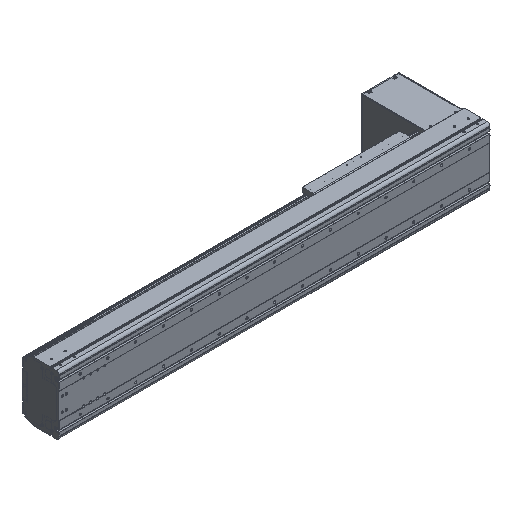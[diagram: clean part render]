
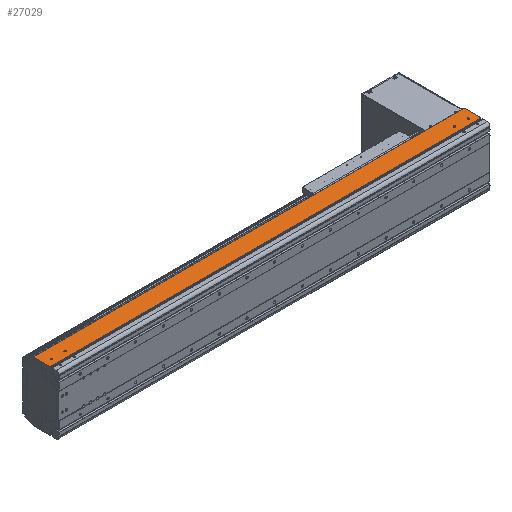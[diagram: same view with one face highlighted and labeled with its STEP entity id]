
A CAD part, isometric view. The second image highlights one B-rep face of the part: STEP entity #27029.
In plain terms, the highlighted planar face has unit normal (0, 0, 1).
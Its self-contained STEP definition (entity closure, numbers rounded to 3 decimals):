
#4945=DIRECTION('',(-1.,0.,0.));
#4946=VECTOR('',#4945,1548.5);
#4947=CARTESIAN_POINT('',(0.,93.5,107.));
#4948=LINE('',#4947,#4946);
#4978=CARTESIAN_POINT('',(0.,93.955,
106.986));
#4980=CARTESIAN_POINT('',(0.,93.955,
106.986));
#4981=CARTESIAN_POINT('',(0.,93.903,
106.986));
#4982=CARTESIAN_POINT('',(0.,93.876,107.012));
#4983=CARTESIAN_POINT('',(0.,93.779,106.99));
#4984=CARTESIAN_POINT('',(0.,93.747,106.99));
#4986=CARTESIAN_POINT('',(0.,93.747,106.99));
#4987=CARTESIAN_POINT('',(0.,93.707,106.99));
#4988=CARTESIAN_POINT('',(0.,93.626,107.005));
#4989=CARTESIAN_POINT('',(0.,93.543,107.));
#4990=CARTESIAN_POINT('',(0.,93.5,107.));
#4992=CARTESIAN_POINT('',(-1523.5,54.,107.));
#4993=DIRECTION('',(0.,0.,-1.));
#4994=DIRECTION('',(1.,0.,0.));
#4995=AXIS2_PLACEMENT_3D('',#4992,#4993,#4994);
#4997=CARTESIAN_POINT('',(-1523.5,54.,107.));
#4998=DIRECTION('',(0.,0.,-1.));
#4999=DIRECTION('',(-1.,0.,0.));
#5000=AXIS2_PLACEMENT_3D('',#4997,#4998,#4999);
#5002=CARTESIAN_POINT('',(-1473.5,54.,107.));
#5003=DIRECTION('',(0.,0.,-1.));
#5004=DIRECTION('',(1.,0.,0.));
#5005=AXIS2_PLACEMENT_3D('',#5002,#5003,#5004);
#5007=CARTESIAN_POINT('',(-1473.5,54.,107.));
#5008=DIRECTION('',(0.,0.,-1.));
#5009=DIRECTION('',(-1.,0.,0.));
#5010=AXIS2_PLACEMENT_3D('',#5007,#5008,#5009);
#5012=CARTESIAN_POINT('',(-23.5,54.,107.));
#5013=DIRECTION('',(0.,0.,-1.));
#5014=DIRECTION('',(1.,0.,0.));
#5015=AXIS2_PLACEMENT_3D('',#5012,#5013,#5014);
#5017=CARTESIAN_POINT('',(-23.5,54.,107.));
#5018=DIRECTION('',(0.,0.,-1.));
#5019=DIRECTION('',(-1.,0.,0.));
#5020=AXIS2_PLACEMENT_3D('',#5017,#5018,#5019);
#5022=CARTESIAN_POINT('',(-73.5,54.,107.));
#5023=DIRECTION('',(0.,0.,-1.));
#5024=DIRECTION('',(1.,0.,0.));
#5025=AXIS2_PLACEMENT_3D('',#5022,#5023,#5024);
#5027=CARTESIAN_POINT('',(-73.5,54.,107.));
#5028=DIRECTION('',(0.,0.,-1.));
#5029=DIRECTION('',(-1.,0.,0.));
#5030=AXIS2_PLACEMENT_3D('',#5027,#5028,#5029);
#5032=DIRECTION('',(0.,-1.,0.));
#5033=VECTOR('',#5032,2.55);
#5034=CARTESIAN_POINT('',(-1546.5,34.65,107.));
#5035=LINE('',#5034,#5033);
#5036=DIRECTION('',(0.,-1.,0.));
#5037=VECTOR('',#5036,58.85);
#5038=CARTESIAN_POINT('',(-1548.5,93.5,107.));
#5039=LINE('',#5038,#5037);
#5040=DIRECTION('',(0.,1.,0.));
#5041=VECTOR('',#5040,58.35);
#5042=CARTESIAN_POINT('',(1.5,35.65,107.));
#5043=LINE('',#5042,#5041);
#5044=DIRECTION('',(0.,1.,0.));
#5045=VECTOR('',#5044,3.55);
#5046=CARTESIAN_POINT('',(0.,32.1,107.));
#5047=LINE('',#5046,#5045);
#5048=DIRECTION('',(1.,0.,0.));
#5049=VECTOR('',#5048,1546.5);
#5050=CARTESIAN_POINT('',(-1546.5,32.1,107.));
#5051=LINE('',#5050,#5049);
#5160=DIRECTION('',(1.,0.,0.));
#5161=VECTOR('',#5160,2.);
#5162=CARTESIAN_POINT('',(-1548.5,34.65,107.));
#5163=LINE('',#5162,#5161);
#5188=DIRECTION('',(-1.,-0.03,-0.009));
#5189=VECTOR('',#5188,1.501);
#5190=CARTESIAN_POINT('',(1.5,94.,107.));
#5191=LINE('',#5190,#5189);
#8638=DIRECTION('',(1.,0.,0.));
#8639=VECTOR('',#8638,1.5);
#8640=CARTESIAN_POINT('',(0.,35.65,107.));
#8641=LINE('',#8640,#8639);
#15930=CARTESIAN_POINT('',(1.5,94.,107.));
#15931=VERTEX_POINT('',#15930);
#15932=CARTESIAN_POINT('',(1.5,35.65,107.));
#15933=VERTEX_POINT('',#15932);
#16002=CARTESIAN_POINT('',(-1548.5,34.65,107.));
#16003=VERTEX_POINT('',#16002);
#16004=CARTESIAN_POINT('',(-1548.5,93.5,107.));
#16005=VERTEX_POINT('',#16004);
#16230=CARTESIAN_POINT('',(-1546.5,32.1,107.));
#16231=VERTEX_POINT('',#16230);
#16281=CARTESIAN_POINT('',(0.,32.1,107.));
#16283=VERTEX_POINT('',#16281);
#16760=CARTESIAN_POINT('',(-1521.,54.,107.));
#16761=CARTESIAN_POINT('',(-1526.,54.,107.));
#16762=VERTEX_POINT('',#16760);
#16763=VERTEX_POINT('',#16761);
#16764=CARTESIAN_POINT('',(-1471.,54.,107.));
#16765=CARTESIAN_POINT('',(-1476.,54.,107.));
#16766=VERTEX_POINT('',#16764);
#16767=VERTEX_POINT('',#16765);
#16768=CARTESIAN_POINT('',(-21.,54.,107.));
#16769=CARTESIAN_POINT('',(-26.,54.,107.));
#16770=VERTEX_POINT('',#16768);
#16771=VERTEX_POINT('',#16769);
#16772=CARTESIAN_POINT('',(-71.,54.,107.));
#16773=CARTESIAN_POINT('',(-76.,54.,107.));
#16774=VERTEX_POINT('',#16772);
#16775=VERTEX_POINT('',#16773);
#18754=CARTESIAN_POINT('',(0.,35.65,107.));
#18755=VERTEX_POINT('',#18754);
#18891=VERTEX_POINT('',#4978);
#18892=VERTEX_POINT('',#4984);
#18893=VERTEX_POINT('',#4990);
#19351=CARTESIAN_POINT('',(-1546.5,34.65,107.));
#19352=VERTEX_POINT('',#19351);
#26983=CARTESIAN_POINT('',(-773.25,62.8,107.));
#26984=DIRECTION('',(0.,0.,1.));
#26985=DIRECTION('',(0.,-1.,0.));
#26986=AXIS2_PLACEMENT_3D('',#26983,#26984,#26985);
#26987=PLANE('',#26986);
#26988=ORIENTED_EDGE('',*,*,#22505,.F.);
#26990=ORIENTED_EDGE('',*,*,#26989,.F.);
#26991=ORIENTED_EDGE('',*,*,#26059,.F.);
#26992=ORIENTED_EDGE('',*,*,#26964,.F.);
#26993=ORIENTED_EDGE('',*,*,#26978,.F.);
#26994=ORIENTED_EDGE('',*,*,#26976,.F.);
#26996=ORIENTED_EDGE('',*,*,#26995,.F.);
#26997=ORIENTED_EDGE('',*,*,#21036,.F.);
#26999=ORIENTED_EDGE('',*,*,#26998,.F.);
#27000=ORIENTED_EDGE('',*,*,#23263,.F.);
#27002=ORIENTED_EDGE('',*,*,#27001,.F.);
#27003=EDGE_LOOP('',(#26988,#26990,#26991,#26992,#26993,#26994,#26996,#26997,
#26999,#27000,#27002));
#27004=FACE_OUTER_BOUND('',#27003,.F.);
#27006=ORIENTED_EDGE('',*,*,#27005,.F.);
#27008=ORIENTED_EDGE('',*,*,#27007,.F.);
#27009=EDGE_LOOP('',(#27006,#27008));
#27010=FACE_BOUND('',#27009,.F.);
#27012=ORIENTED_EDGE('',*,*,#27011,.F.);
#27014=ORIENTED_EDGE('',*,*,#27013,.F.);
#27015=EDGE_LOOP('',(#27012,#27014));
#27016=FACE_BOUND('',#27015,.F.);
#27018=ORIENTED_EDGE('',*,*,#27017,.F.);
#27020=ORIENTED_EDGE('',*,*,#27019,.F.);
#27021=EDGE_LOOP('',(#27018,#27020));
#27022=FACE_BOUND('',#27021,.F.);
#27024=ORIENTED_EDGE('',*,*,#27023,.F.);
#27026=ORIENTED_EDGE('',*,*,#27025,.F.);
#27027=EDGE_LOOP('',(#27024,#27026));
#27028=FACE_BOUND('',#27027,.F.);
#27029=ADVANCED_FACE('',(#27004,#27010,#27016,#27022,#27028),#26987,.T.);
#4985=B_SPLINE_CURVE_WITH_KNOTS('',3,(#4980,#4981,#4982,#4983,#4984),
.UNSPECIFIED.,.F.,.F.,(4,1,4),(0.,0.5,1.),.UNSPECIFIED.);
#4991=B_SPLINE_CURVE_WITH_KNOTS('',3,(#4986,#4987,#4988,#4989,#4990),
.UNSPECIFIED.,.F.,.F.,(4,1,4),(0.,0.5,1.),.UNSPECIFIED.);
#4996=CIRCLE('',#4995,2.5);
#5001=CIRCLE('',#5000,2.5);
#5006=CIRCLE('',#5005,2.5);
#5011=CIRCLE('',#5010,2.5);
#5016=CIRCLE('',#5015,2.5);
#5021=CIRCLE('',#5020,2.5);
#5026=CIRCLE('',#5025,2.5);
#5031=CIRCLE('',#5030,2.5);
#21036=EDGE_CURVE('',#15933,#15931,#5043,.T.);
#22505=EDGE_CURVE('',#19352,#16231,#5035,.T.);
#23263=EDGE_CURVE('',#16283,#18755,#5047,.T.);
#26059=EDGE_CURVE('',#16005,#16003,#5039,.T.);
#26964=EDGE_CURVE('',#18893,#16005,#4948,.T.);
#26976=EDGE_CURVE('',#18891,#18892,#4985,.T.);
#26978=EDGE_CURVE('',#18892,#18893,#4991,.T.);
#26989=EDGE_CURVE('',#16003,#19352,#5163,.T.);
#26995=EDGE_CURVE('',#15931,#18891,#5191,.T.);
#26998=EDGE_CURVE('',#18755,#15933,#8641,.T.);
#27001=EDGE_CURVE('',#16231,#16283,#5051,.T.);
#27005=EDGE_CURVE('',#16766,#16767,#5006,.T.);
#27007=EDGE_CURVE('',#16767,#16766,#5011,.T.);
#27011=EDGE_CURVE('',#16770,#16771,#5016,.T.);
#27013=EDGE_CURVE('',#16771,#16770,#5021,.T.);
#27017=EDGE_CURVE('',#16774,#16775,#5026,.T.);
#27019=EDGE_CURVE('',#16775,#16774,#5031,.T.);
#27023=EDGE_CURVE('',#16762,#16763,#4996,.T.);
#27025=EDGE_CURVE('',#16763,#16762,#5001,.T.);
